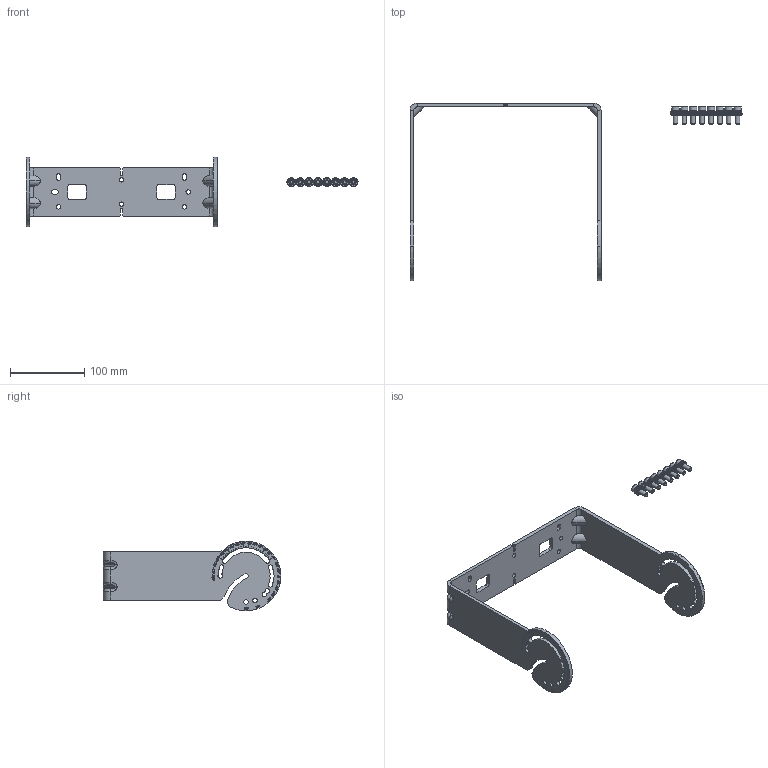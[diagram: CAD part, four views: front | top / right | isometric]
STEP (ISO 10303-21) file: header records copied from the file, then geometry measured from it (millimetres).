
FILE_DESCRIPTION (( 'STEP AP214' ), '1' );
FILE_NAME ('820-21023-001_Rev08.STEP', '2023-09-05T14:38:49', ( '' ), ( '' ), 'SwSTEP 2.0', 'SolidWorks 2023', '' );
FILE_SCHEMA (( 'AUTOMOTIVE_DESIGN' ));
Length unit declared in the file: millimetre
Products named in the file (7): SPLIT LOCK WASHER M6^195-20080_GET BHL PN; SHCS_M6x18^195-20080_91292A135; 195-20080; 370-20123-001; FLAT WASHER M6^195-20080; 820-21023-001_Rev08; 197-20022
Assembly tree (13 placements, depth 3):
  820-21023-001_Rev08
    370-20123-001
    195-20080  x8
      SHCS_M6x18^195-20080_91292A135
      SPLIT LOCK WASHER M6^195-20080_GET BHL PN
      FLAT WASHER M6^195-20080
      197-20022
Bounding box: 448.2 x 240 x 94 mm (x, y, z)
Volume: 238286.5 mm3; surface area: 116781.3 mm2
Topology: 33 solids, 33 shells, 3194 faces, 8300 edges, 5468 vertices
Faces by surface type: plane 1470, bspline 1130, cylinder 482, cone 104, torus 8
Entity records: 140489 total; most frequent: CARTESIAN_POINT 81600, ORIENTED_EDGE 13996, DIRECTION 8548, EDGE_CURVE 6998, VERTEX_POINT 4642, LINE 4072, VECTOR 4072, EDGE_LOOP 2978
